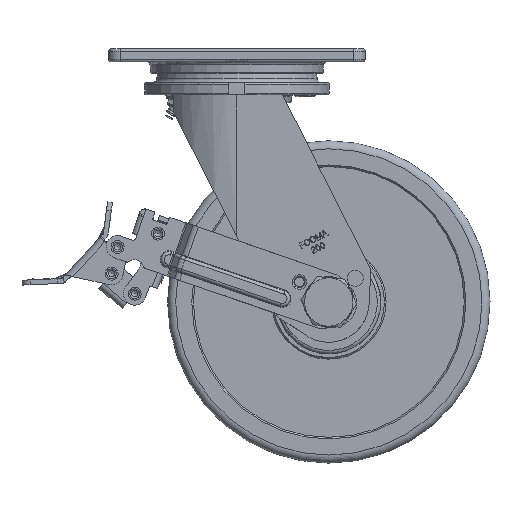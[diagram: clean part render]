
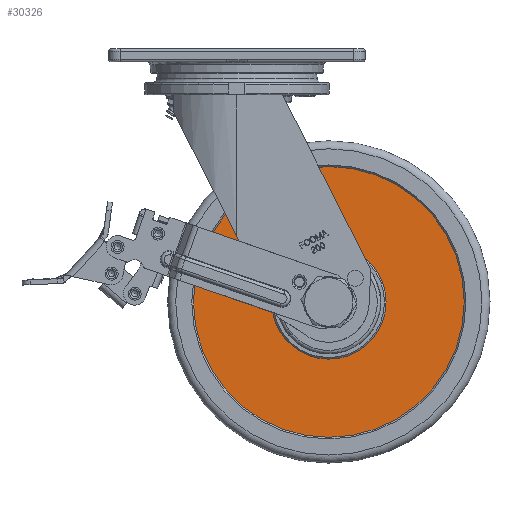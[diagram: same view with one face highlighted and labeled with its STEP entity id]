
A CAD part, front view. The second image highlights one B-rep face of the part: STEP entity #30326.
In plain terms, the highlighted planar face has unit normal (0, -1, 0).
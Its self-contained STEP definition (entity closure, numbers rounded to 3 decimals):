
#2009=FACE_BOUND('',#4722,.T.);
#2171=PLANE('',#32366);
#2864=FACE_OUTER_BOUND('',#4721,.T.);
#4721=EDGE_LOOP('',(#20855,#20856));
#4722=EDGE_LOOP('',(#20857,#20858));
#11331=CIRCLE('',#32364,35.5);
#11332=CIRCLE('',#32365,35.5);
#11333=CIRCLE('',#32367,84.);
#11334=CIRCLE('',#32368,84.);
#12664=VERTEX_POINT('',#43373);
#12665=VERTEX_POINT('',#43374);
#12666=VERTEX_POINT('',#43379);
#12667=VERTEX_POINT('',#43380);
#15809=EDGE_CURVE('',#12664,#12665,#11331,.T.);
#15810=EDGE_CURVE('',#12665,#12664,#11332,.T.);
#15812=EDGE_CURVE('',#12666,#12667,#11333,.T.);
#15813=EDGE_CURVE('',#12667,#12666,#11334,.T.);
#20855=ORIENTED_EDGE('',*,*,#15812,.F.);
#20856=ORIENTED_EDGE('',*,*,#15813,.F.);
#20857=ORIENTED_EDGE('',*,*,#15809,.T.);
#20858=ORIENTED_EDGE('',*,*,#15810,.T.);
#30326=ADVANCED_FACE('',(#2864,#2009),#2171,.T.);
#32364=AXIS2_PLACEMENT_3D('',#43375,#35485,#35486);
#32365=AXIS2_PLACEMENT_3D('',#43376,#35487,#35488);
#32366=AXIS2_PLACEMENT_3D('',#43378,#35490,#35491);
#32367=AXIS2_PLACEMENT_3D('',#43381,#35492,#35493);
#32368=AXIS2_PLACEMENT_3D('',#43382,#35494,#35495);
#35485=DIRECTION('center_axis',(0.,1.,0.));
#35486=DIRECTION('ref_axis',(1.,0.,0.));
#35487=DIRECTION('center_axis',(0.,1.,0.));
#35488=DIRECTION('ref_axis',(1.,0.,0.));
#35490=DIRECTION('center_axis',(0.,-1.,0.));
#35491=DIRECTION('ref_axis',(0.,0.,-1.));
#35492=DIRECTION('center_axis',(0.,1.,0.));
#35493=DIRECTION('ref_axis',(1.,0.,0.));
#35494=DIRECTION('center_axis',(0.,1.,0.));
#35495=DIRECTION('ref_axis',(1.,0.,0.));
#43373=CARTESIAN_POINT('',(57.,-31.,-97.75));
#43374=CARTESIAN_POINT('',(57.,-31.,-168.75));
#43375=CARTESIAN_POINT('Origin',(57.,-31.,-133.25));
#43376=CARTESIAN_POINT('Origin',(57.,-31.,-133.25));
#43378=CARTESIAN_POINT('Origin',(57.,-31.,-49.25));
#43379=CARTESIAN_POINT('',(57.,-31.,-49.25));
#43380=CARTESIAN_POINT('',(57.,-31.,-217.25));
#43381=CARTESIAN_POINT('Origin',(57.,-31.,-133.25));
#43382=CARTESIAN_POINT('Origin',(57.,-31.,-133.25));
